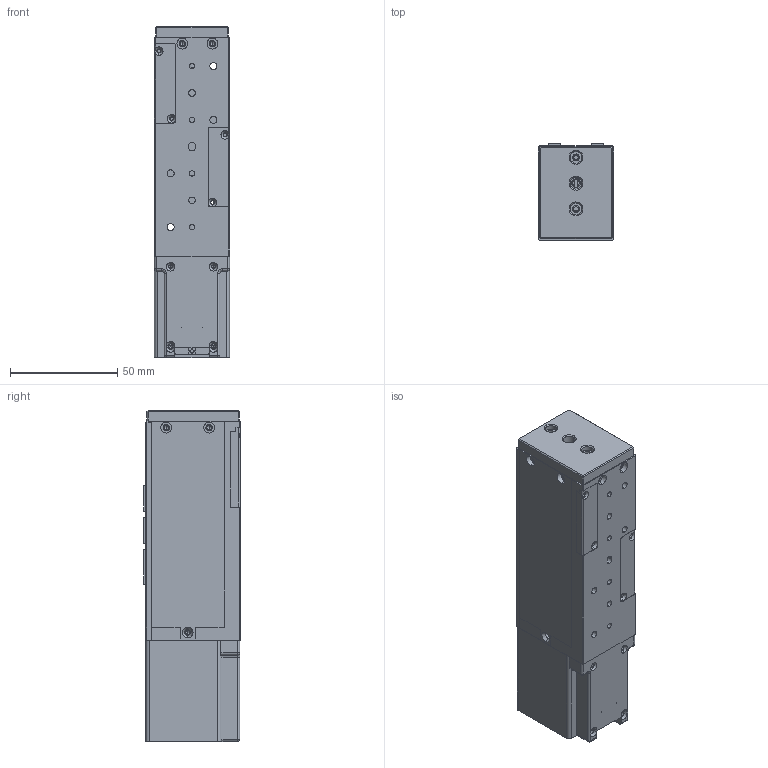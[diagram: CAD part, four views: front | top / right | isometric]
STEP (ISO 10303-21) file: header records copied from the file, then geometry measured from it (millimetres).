
FILE_DESCRIPTION (( 'STEP AP203' ), '1' );
FILE_NAME ('EM35A47-B06P30.STEP', '2023-10-28T06:12:05', ( '' ), ( '' ), 'SwSTEP 2.0', 'SolidWorks 2023', '' );
FILE_SCHEMA (( 'CONFIG_CONTROL_DESIGN' ));
Length unit declared in the file: millimetre
Products named in the file (14): 35-30光电滑台盖板; 0606螺母; EM35A47-B06P30; 35-30分体侧板; 35光电开关滑台安装座; 28-42前导光片; 28-42后导光片; 35A47-GZ0606-102; 35分体轴承座; 35轴承调节板; MGN12C-86导轨; 35A47.3端子盖; MGN12C滑块; 35-30光电滑台分体基座
Assembly tree (14 placements, depth 2):
  EM35A47-B06P30
    35-30光电滑台分体基座
    MGN12C-86导轨
    MGN12C滑块
    35光电开关滑台安装座
    0606螺母
    35A47-GZ0606-102
    35分体轴承座
    35-30分体侧板  x2
    35-30光电滑台盖板
    35轴承调节板
    28-42前导光片
    28-42后导光片
    35A47.3端子盖
Bounding box: 35 x 45 x 154.3 mm (x, y, z)
Volume: 162718.6 mm3; surface area: 80928 mm2
Topology: 14 solids, 14 shells, 870 faces, 2328 edges, 1457 vertices
Faces by surface type: cylinder 378, plane 360, cone 115, torus 7, bspline 6, sphere 4
Entity records: 36152 total; most frequent: CARTESIAN_POINT 13322, DIRECTION 4556, ORIENTED_EDGE 4376, EDGE_CURVE 2188, AXIS2_PLACEMENT_3D 1620, VERTEX_POINT 1411, LINE 1316, VECTOR 1316
